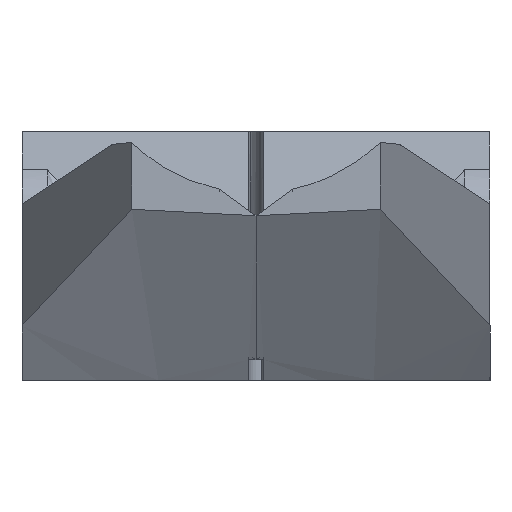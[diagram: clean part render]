
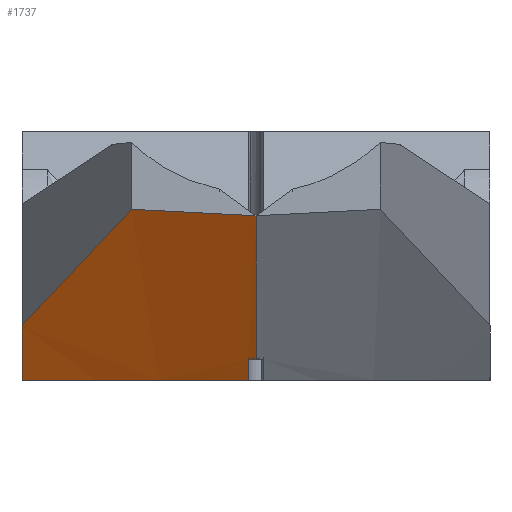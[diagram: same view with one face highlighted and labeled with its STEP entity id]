
A CAD part, left-side view. The second image highlights one B-rep face of the part: STEP entity #1737.
In plain terms, the highlighted cylindrical face has radius 85 mm (diameter 170 mm), a partial arc.
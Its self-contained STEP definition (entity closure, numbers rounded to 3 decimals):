
#19 = VERTEX_POINT ( 'NONE', #1623 ) ;
#362 = CARTESIAN_POINT ( 'NONE',  ( -23.876, 5.706, -17. ) ) ;
#401 = ORIENTED_EDGE ( 'NONE', *, *, #3894, .F. ) ;
#509 = CARTESIAN_POINT ( 'NONE',  ( -29.295, 0.333, -15.581 ) ) ;
#520 = DIRECTION ( 'NONE',  ( 0.966, 0., -0.259 ) ) ;
#546 = CARTESIAN_POINT ( 'NONE',  ( -29.295, 0.167, -15.581 ) ) ;
#555 = CARTESIAN_POINT ( 'NONE',  ( -23.994, 0.5, -17. ) ) ;
#604 = LINE ( 'NONE', #1769, #2685 ) ;
#626 = CARTESIAN_POINT ( 'NONE',  ( -66., 8.5, -5.305 ) ) ;
#667 = LINE ( 'NONE', #3255, #3541 ) ;
#900 = CARTESIAN_POINT ( 'NONE',  ( -32., 16., -13.283 ) ) ;
#1008 = CARTESIAN_POINT ( 'NONE',  ( -29.295, 0.5, -15.58 ) ) ;
#1026 =( BOUNDED_CURVE ( )  B_SPLINE_CURVE ( 3, ( #4872, #2569, #2956, #626 ),
 .UNSPECIFIED., .F., .T. ) 
 B_SPLINE_CURVE_WITH_KNOTS ( ( 4, 4 ),
 ( 0., 0.1 ),
 .UNSPECIFIED. ) 
 CURVE ( )  GEOMETRIC_REPRESENTATION_ITEM ( )  RATIONAL_B_SPLINE_CURVE ( ( 1., 0.999, 0.999, 1. ) ) 
 REPRESENTATION_ITEM ( '' )  );
#1058 = VERTEX_POINT ( 'NONE', #3939 ) ;
#1155 = VERTEX_POINT ( 'NONE', #1961 ) ;
#1311 = CYLINDRICAL_SURFACE ( 'NONE', #4504, 85. ) ;
#1313 = EDGE_LOOP ( 'NONE', ( #2630, #1742, #4277, #401, #2404, #4666, #4285 ) ) ;
#1348 = DIRECTION ( 'NONE',  ( 0.966, 0., -0.259 ) ) ;
#1487 = LINE ( 'NONE', #4911, #2533 ) ;
#1539 = CARTESIAN_POINT ( 'NONE',  ( -21.915, 10.887, -17. ) ) ;
#1623 = CARTESIAN_POINT ( 'NONE',  ( -29.295, 0., -15.581 ) ) ;
#1737 = ADVANCED_FACE ( 'NONE', ( #2207 ), #1311, .F. ) ;
#1742 = ORIENTED_EDGE ( 'NONE', *, *, #2792, .T. ) ;
#1769 = CARTESIAN_POINT ( 'NONE',  ( -83.58, 0., -1.036 ) ) ;
#1887 = CARTESIAN_POINT ( 'NONE',  ( -66., 8.5, -5.305 ) ) ;
#1961 = CARTESIAN_POINT ( 'NONE',  ( -18.129, 16., -17. ) ) ;
#2057 = CARTESIAN_POINT ( 'NONE',  ( -54.597, 11.015, -8.099 ) ) ;
#2207 = FACE_OUTER_BOUND ( 'NONE', #1313, .T. ) ;
#2258 = VERTEX_POINT ( 'NONE', #1008 ) ;
#2404 = ORIENTED_EDGE ( 'NONE', *, *, #4536, .F. ) ;
#2412 = VERTEX_POINT ( 'NONE', #1887 ) ;
#2501 = DIRECTION ( 'NONE',  ( -0.259, 0., -0.966 ) ) ;
#2533 = VECTOR ( 'NONE', #3396, 1000. ) ;
#2569 = CARTESIAN_POINT ( 'NONE',  ( -66., 2.839, -5.746 ) ) ;
#2593 = EDGE_CURVE ( 'NONE', #2412, #2705, #5011, .T. ) ;
#2630 = ORIENTED_EDGE ( 'NONE', *, *, #2892, .F. ) ;
#2685 = VECTOR ( 'NONE', #4477, 1000. ) ;
#2705 = VERTEX_POINT ( 'NONE', #4818 ) ;
#2775 = VERTEX_POINT ( 'NONE', #555 ) ;
#2792 = EDGE_CURVE ( 'NONE', #1058, #19, #604, .T. ) ;
#2892 = EDGE_CURVE ( 'NONE', #1058, #2412, #1026, .T. ) ;
#2956 = CARTESIAN_POINT ( 'NONE',  ( -66., 5.675, -5.599 ) ) ;
#3102 = CARTESIAN_POINT ( 'NONE',  ( -23.994, 0.5, -17. ) ) ;
#3211 = EDGE_CURVE ( 'NONE', #2705, #1155, #667, .T. ) ;
#3248 = CARTESIAN_POINT ( 'NONE',  ( -43.256, 13.517, -10.76 ) ) ;
#3255 = CARTESIAN_POINT ( 'NONE',  ( -45.757, 16., -9.597 ) ) ;
#3276 = CARTESIAN_POINT ( 'NONE',  ( -29.295, 0., -15.581 ) ) ;
#3303 = CARTESIAN_POINT ( 'NONE',  ( -61.58, 0., 81.068 ) ) ;
#3357 =( BOUNDED_CURVE ( )  B_SPLINE_CURVE ( 3, ( #4805, #509, #546, #3276 ),
 .UNSPECIFIED., .F., .T. ) 
 B_SPLINE_CURVE_WITH_KNOTS ( ( 4, 4 ),
 ( 6.277, 6.283 ),
 .UNSPECIFIED. ) 
 CURVE ( )  GEOMETRIC_REPRESENTATION_ITEM ( )  RATIONAL_B_SPLINE_CURVE ( ( 1., 1., 1., 1. ) ) 
 REPRESENTATION_ITEM ( '' )  );
#3396 = DIRECTION ( 'NONE',  ( -0.966, 0., 0.259 ) ) ;
#3541 = VECTOR ( 'NONE', #520, 1000. ) ;
#3894 = EDGE_CURVE ( 'NONE', #2775, #2258, #1487, .T. ) ;
#3939 = CARTESIAN_POINT ( 'NONE',  ( -66., 0., -5.746 ) ) ;
#4277 = ORIENTED_EDGE ( 'NONE', *, *, #4340, .F. ) ;
#4285 = ORIENTED_EDGE ( 'NONE', *, *, #2593, .F. ) ;
#4340 = EDGE_CURVE ( 'NONE', #2258, #19, #3357, .T. ) ;
#4477 = DIRECTION ( 'NONE',  ( 0.966, 0., -0.259 ) ) ;
#4504 = AXIS2_PLACEMENT_3D ( 'NONE', #3303, #1348, #2501 ) ;
#4536 = EDGE_CURVE ( 'NONE', #1155, #2775, #4627, .T. ) ;
#4627 =( BOUNDED_CURVE ( )  B_SPLINE_CURVE ( 3, ( #4639, #1539, #362, #3102 ),
 .UNSPECIFIED., .F., .T. ) 
 B_SPLINE_CURVE_WITH_KNOTS ( ( 4, 4 ),
 ( 2.952, 3.136 ),
 .UNSPECIFIED. ) 
 CURVE ( )  GEOMETRIC_REPRESENTATION_ITEM ( )  RATIONAL_B_SPLINE_CURVE ( ( 1., 0.997, 0.997, 1. ) ) 
 REPRESENTATION_ITEM ( '' )  );
#4639 = CARTESIAN_POINT ( 'NONE',  ( -18.129, 16., -17. ) ) ;
#4666 = ORIENTED_EDGE ( 'NONE', *, *, #3211, .F. ) ;
#4778 = CARTESIAN_POINT ( 'NONE',  ( -66., 8.5, -5.305 ) ) ;
#4805 = CARTESIAN_POINT ( 'NONE',  ( -29.295, 0.5, -15.58 ) ) ;
#4818 = CARTESIAN_POINT ( 'NONE',  ( -32., 16., -13.283 ) ) ;
#4872 = CARTESIAN_POINT ( 'NONE',  ( -66., 0., -5.746 ) ) ;
#4911 = CARTESIAN_POINT ( 'NONE',  ( -46.15, 0.5, -11.063 ) ) ;
#5011 =( BOUNDED_CURVE ( )  B_SPLINE_CURVE ( 3, ( #4778, #2057, #3248, #900 ),
 .UNSPECIFIED., .F., .T. ) 
 B_SPLINE_CURVE_WITH_KNOTS ( ( 4, 4 ),
 ( 4.87, 4.959 ),
 .UNSPECIFIED. ) 
 CURVE ( )  GEOMETRIC_REPRESENTATION_ITEM ( )  RATIONAL_B_SPLINE_CURVE ( ( 1., 0.999, 0.999, 1. ) ) 
 REPRESENTATION_ITEM ( '' )  );
